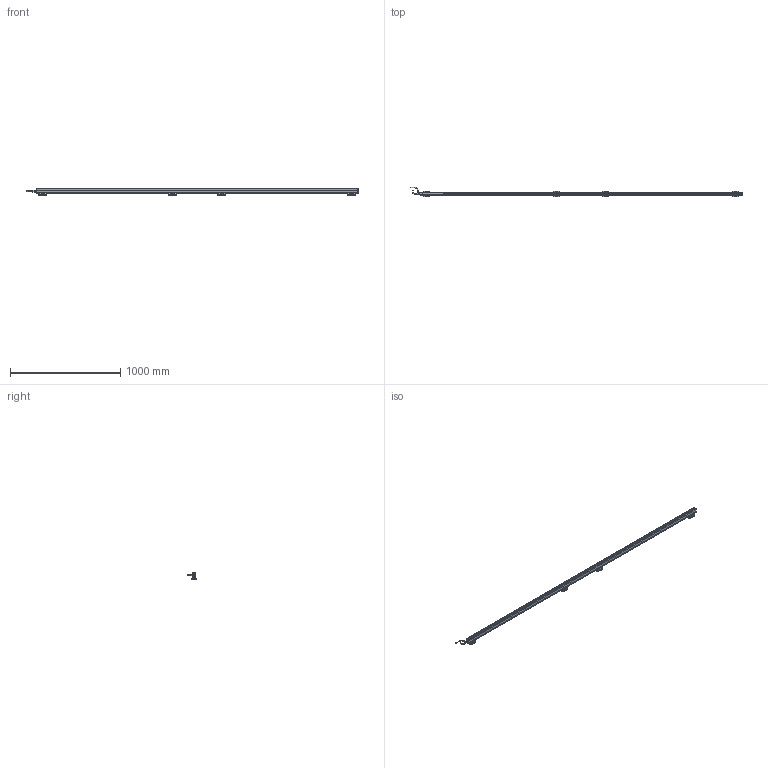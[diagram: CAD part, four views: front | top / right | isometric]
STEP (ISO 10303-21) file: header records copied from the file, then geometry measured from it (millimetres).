
FILE_DESCRIPTION(('Bauteilbeschreibung','HiCAD-Model','HiCAD-STEP-TRANSLATION','Bauteilbeschreibung'),'2;1');
FILE_NAME('PERFORMAXIQEASY_2850-2940_3D.STP','2014-03-05T13:10:18+00:00',('Konstrukteur'),('Konstrukteur Firma GmbH'),' HiCAD 2011, Step 1600.0 ','HiCAD 2011','confidential');
FILE_SCHEMA(('AUTOMOTIVE_DESIGN { 1 2 10303 214 0 1 1 1 }'));
Products named in the file (46): PERFORMAXIQEASY_2850_2940_3D; A_PERFORMAX IQ EASY 2850_2940; A_PERFORMAX IQ EASY SPEED; A_CAP DE; A_CAP CE_5; LED_2C_3MM; LED02C03MM; A519020315_CONNECTOR APPLIANCE; A_INSERT; A_CONTACTS; A_HOUSING; A_PROFILE; A_POTTING; PIN; PIN0; A532000100_BRACKET BARS_ MOUNT; A_SIDE PIECE; A0SIDE0PIECE; A_BRACKET SMALL; A_SLIDE PIECE; A5320001000BRACKET0BARS00MOUNT; A0SIDE0PIECE0; A0SIDE0PIECE1; A0BRACKET0SMALL; A0SLIDE0PIECE; A5320001000BRACKET0BARS00MOUNT0; A0SIDE0PIECE2; A0SIDE0PIECE3; A0BRACKET0SMALL0; A0SLIDE0PIECE0; A0SIDE0PIECE4; A0SIDE0PIECE5; A0BRACKET0SMALL1; A0SLIDE0PIECE1; A_CONNECTOR STRAIGHT; EXTRUDED SOLID_0; DRAAD GEBOGEN; REVOLVED SOLID_1; REVOLVED SOLID_3; A_CONNECTOR ANGLED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
Assembly tree (45 placements, depth 5):
  PERFORMAXIQEASY_2850_2940_3D
    A_PERFORMAX IQ EASY 2850_2940
      A_PERFORMAX IQ EASY SPEED
        A_CAP DE
        A_CAP CE_5
        LED_2C_3MM
        LED02C03MM
        A519020315_CONNECTOR APPLIANCE
          A_INSERT
          A_CONTACTS
          A_HOUSING
        A_PROFILE
        A_POTTING
        PIN
        PIN0
      A532000100_BRACKET BARS_ MOUNT
        A_SIDE PIECE
        A0SIDE0PIECE
        A_BRACKET SMALL
        A_SLIDE PIECE
      A5320001000BRACKET0BARS00MOUNT
        A0SIDE0PIECE0
        A0SIDE0PIECE1
        A0BRACKET0SMALL
        A0SLIDE0PIECE
      A5320001000BRACKET0BARS00MOUNT0
        A0SIDE0PIECE2
        A0SIDE0PIECE3
        A0BRACKET0SMALL0
        A0SLIDE0PIECE0
      A5320001000BRACKET0BARS00MOUNT0
        A0SIDE0PIECE4
        A0SIDE0PIECE5
        A0BRACKET0SMALL1
        A0SLIDE0PIECE1
      A_CONNECTOR STRAIGHT
        EXTRUDED SOLID_0
        DRAAD GEBOGEN
        REVOLVED SOLID_1
        REVOLVED SOLID_3
      A_CONNECTOR ANGLED
        REVOLVED0SOLID01
        EXTRUDED0SOLID00
        C_EDGE SWEEP_0
        REVOLVED SOLID_2
        REVOLVED0SOLID03
Bounding box: 3017.89 x 84.22 x 63.13 mm (x, y, z)
Volume: 3016499.6 mm3; surface area: 728174.6 mm2
Topology: 41 solids, 41 shells, 3447 faces, 8839 edges, 5258 vertices
Faces by surface type: cylinder 1457, plane 1315, sphere 222, torus 205, bspline 168, cone 80
Full cylindrical faces by diameter (mm): 0.8 x10, 1 x5, 2.387 x8, 3 x19, 3.1 x1, 4.2 x2, 5 x4, 5.5 x20, 8 x2, 8.2 x1, 8.4 x2, 8.945 x1, 9 x2, 10.2 x1, 10.5 x3, 11 x1, 12 x3, 12.8 x1, 13.8 x4, 14.5 x3
Entity records: 159221 total; most frequent: CARTESIAN_POINT 37152, DIRECTION 17145, ORIENTED_EDGE 16748, EDGE_CURVE 8374, COLOUR_RGB 7959, PRESENTATION_STYLE_ASSIGNMENT 7959, OVER_RIDING_STYLED_ITEM 7923, CURVE_STYLE 7918
